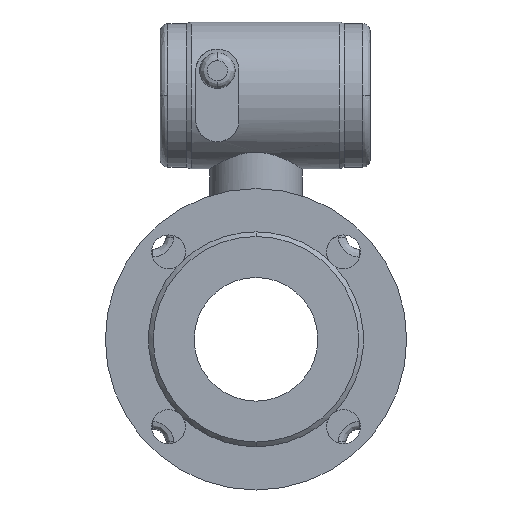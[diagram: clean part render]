
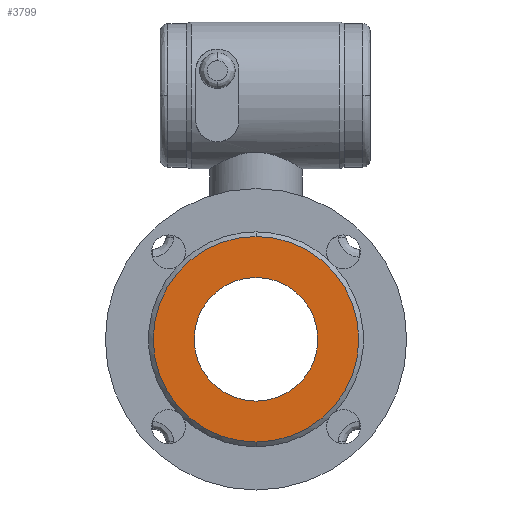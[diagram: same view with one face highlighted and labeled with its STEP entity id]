
A CAD part, front view. The second image highlights one B-rep face of the part: STEP entity #3799.
In plain terms, the highlighted planar face has unit normal (0, -1, 0).
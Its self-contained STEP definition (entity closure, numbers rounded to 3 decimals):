
#395 = EDGE_LOOP ( 'NONE', ( #6932, #735 ) ) ;
#627 = FACE_OUTER_BOUND ( 'NONE', #2551, .T. ) ;
#683 = ORIENTED_EDGE ( 'NONE', *, *, #6410, .F. ) ;
#735 = ORIENTED_EDGE ( 'NONE', *, *, #4714, .T. ) ;
#918 = AXIS2_PLACEMENT_3D ( 'NONE', #2567, #2558, #2547 ) ;
#1171 = FACE_BOUND ( 'NONE', #395, .T. ) ;
#1590 = CARTESIAN_POINT ( 'NONE',  ( 0., -100., 40. ) ) ;
#2115 = AXIS2_PLACEMENT_3D ( 'NONE', #5507, #3372, #2840 ) ;
#2547 = DIRECTION ( 'NONE',  ( 0., 0., -1. ) ) ;
#2551 = EDGE_LOOP ( 'NONE', ( #3874, #683 ) ) ;
#2558 = DIRECTION ( 'NONE',  ( 0., 1., 0. ) ) ;
#2567 = CARTESIAN_POINT ( 'NONE',  ( 0., -100., 0. ) ) ;
#2598 = DIRECTION ( 'NONE',  ( 0., 1., 0. ) ) ;
#2606 = CARTESIAN_POINT ( 'NONE',  ( 0., -100., 66.5 ) ) ;
#2637 = CARTESIAN_POINT ( 'NONE',  ( 0., -100., 0. ) ) ;
#2699 = VERTEX_POINT ( 'NONE', #3683 ) ;
#2813 = DIRECTION ( 'NONE',  ( 0., 0., 1. ) ) ;
#2840 = DIRECTION ( 'NONE',  ( 0., 0., 1. ) ) ;
#2983 = EDGE_CURVE ( 'NONE', #6745, #3336, #6714, .T. ) ;
#3009 = CARTESIAN_POINT ( 'NONE',  ( 0., -100., -40. ) ) ;
#3336 = VERTEX_POINT ( 'NONE', #1590 ) ;
#3372 = DIRECTION ( 'NONE',  ( 0., 1., 0. ) ) ;
#3442 = EDGE_CURVE ( 'NONE', #4723, #2699, #3840, .T. ) ;
#3683 = CARTESIAN_POINT ( 'NONE',  ( 0., -100., -66.5 ) ) ;
#3799 = ADVANCED_FACE ( 'NONE', ( #627, #1171 ), #5690, .F. ) ;
#3840 = CIRCLE ( 'NONE', #4606, 66.5 ) ;
#3874 = ORIENTED_EDGE ( 'NONE', *, *, #3442, .F. ) ;
#4324 = AXIS2_PLACEMENT_3D ( 'NONE', #5809, #5858, #5884 ) ;
#4606 = AXIS2_PLACEMENT_3D ( 'NONE', #2637, #2598, #2813 ) ;
#4714 = EDGE_CURVE ( 'NONE', #3336, #6745, #6446, .T. ) ;
#4723 = VERTEX_POINT ( 'NONE', #2606 ) ;
#5254 = AXIS2_PLACEMENT_3D ( 'NONE', #6895, #6842, #6813 ) ;
#5507 = CARTESIAN_POINT ( 'NONE',  ( 0., -100., 0. ) ) ;
#5690 = PLANE ( 'NONE',  #4324 ) ;
#5809 = CARTESIAN_POINT ( 'NONE',  ( 0., -100., 0. ) ) ;
#5858 = DIRECTION ( 'NONE',  ( 0., 1., 0. ) ) ;
#5884 = DIRECTION ( 'NONE',  ( 0., 0., 1. ) ) ;
#6410 = EDGE_CURVE ( 'NONE', #2699, #4723, #6615, .T. ) ;
#6446 = CIRCLE ( 'NONE', #918, 40. ) ;
#6615 = CIRCLE ( 'NONE', #2115, 66.5 ) ;
#6714 = CIRCLE ( 'NONE', #5254, 40. ) ;
#6745 = VERTEX_POINT ( 'NONE', #3009 ) ;
#6813 = DIRECTION ( 'NONE',  ( 0., 0., -1. ) ) ;
#6842 = DIRECTION ( 'NONE',  ( 0., 1., 0. ) ) ;
#6895 = CARTESIAN_POINT ( 'NONE',  ( 0., -100., 0. ) ) ;
#6932 = ORIENTED_EDGE ( 'NONE', *, *, #2983, .T. ) ;
